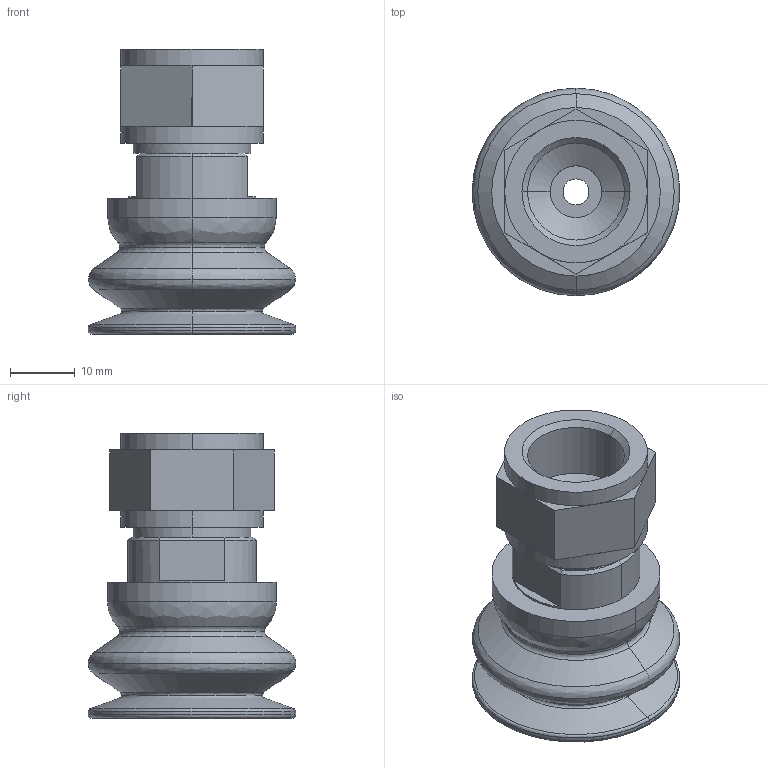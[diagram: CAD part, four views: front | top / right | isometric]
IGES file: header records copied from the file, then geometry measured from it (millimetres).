
Start section: 3D InterOp IGES (v. 2018 1.0.2), Spatial Corp. Copyright (c) 1999-2017.
Global section: file name: schmalz_10_01_06_01198_eiy9my65xyti970rfseptx2yy.igs; native system: Spatial Corp.; preprocessor: 3D InterOp ACIS/IGES; author: TraceParts; organization: TraceParts S.A.; date: 20181017.094033; units: millimetre
Bounding box: 32 x 32 x 44 mm (x, y, z)
Surface area: 7639.6 mm2 (no closed solid volume)
Topology: 0 solids, 0 shells, 108 faces, 456 edges, 456 vertices
Faces by surface type: revolution 70, extrusion 38
